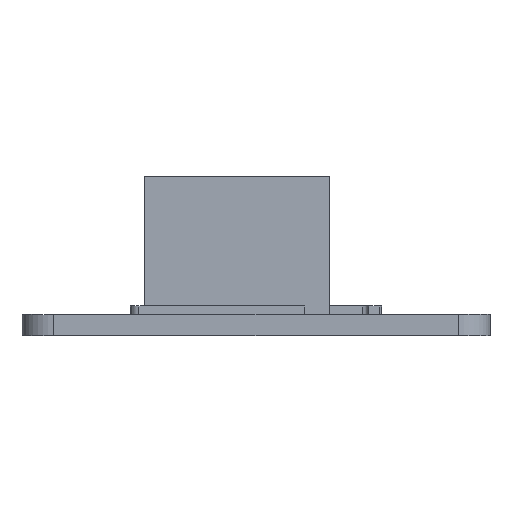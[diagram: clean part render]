
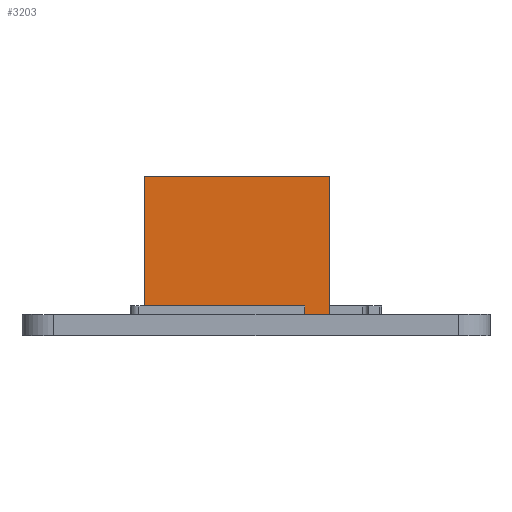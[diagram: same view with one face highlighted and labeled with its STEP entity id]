
A CAD part, front view. The second image highlights one B-rep face of the part: STEP entity #3203.
In plain terms, the highlighted planar face has unit normal (0, -1, 0).
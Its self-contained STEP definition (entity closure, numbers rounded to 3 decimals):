
#44 = PLANE('',#45);
#45 = AXIS2_PLACEMENT_3D('',#46,#47,#48);
#46 = CARTESIAN_POINT('',(-22.,-26.,-15.));
#47 = DIRECTION('',(0.,0.,1.));
#48 = DIRECTION('',(1.,0.,0.));
#2743 = VERTEX_POINT('',#2744);
#2744 = CARTESIAN_POINT('',(-10.45,-20.02,-15.));
#2760 = PLANE('',#2761);
#2761 = AXIS2_PLACEMENT_3D('',#2762,#2763,#2764);
#2762 = CARTESIAN_POINT('',(-10.45,-20.02,-15.));
#2763 = DIRECTION('',(1.,0.,0.));
#2764 = DIRECTION('',(0.,0.,1.));
#2801 = VERTEX_POINT('',#2802);
#2802 = CARTESIAN_POINT('',(6.95,-20.02,-15.));
#2816 = PLANE('',#2817);
#2817 = AXIS2_PLACEMENT_3D('',#2818,#2819,#2820);
#2818 = CARTESIAN_POINT('',(6.95,-20.02,-15.));
#2819 = DIRECTION('',(1.,0.,0.));
#2820 = DIRECTION('',(0.,0.,1.));
#2828 = EDGE_CURVE('',#2743,#2801,#2829,.T.);
#2829 = SURFACE_CURVE('',#2830,(#2834,#2841),.PCURVE_S1.);
#2830 = LINE('',#2831,#2832);
#2831 = CARTESIAN_POINT('',(-10.45,-20.02,-15.));
#2832 = VECTOR('',#2833,1.);
#2833 = DIRECTION('',(1.,0.,0.));
#2834 = PCURVE('',#44,#2835);
#2835 = DEFINITIONAL_REPRESENTATION('',(#2836),#2840);
#2836 = LINE('',#2837,#2838);
#2837 = CARTESIAN_POINT('',(11.55,5.98));
#2838 = VECTOR('',#2839,1.);
#2839 = DIRECTION('',(1.,0.));
#2840 = ( GEOMETRIC_REPRESENTATION_CONTEXT(2) 
PARAMETRIC_REPRESENTATION_CONTEXT() REPRESENTATION_CONTEXT('2D SPACE',''
  ) );
#2841 = PCURVE('',#2842,#2847);
#2842 = PLANE('',#2843);
#2843 = AXIS2_PLACEMENT_3D('',#2844,#2845,#2846);
#2844 = CARTESIAN_POINT('',(-10.45,-20.02,-15.));
#2845 = DIRECTION('',(0.,1.,0.));
#2846 = DIRECTION('',(0.,0.,1.));
#2847 = DEFINITIONAL_REPRESENTATION('',(#2848),#2852);
#2848 = LINE('',#2849,#2850);
#2849 = CARTESIAN_POINT('',(0.,0.));
#2850 = VECTOR('',#2851,1.);
#2851 = DIRECTION('',(0.,1.));
#2852 = ( GEOMETRIC_REPRESENTATION_CONTEXT(2) 
PARAMETRIC_REPRESENTATION_CONTEXT() REPRESENTATION_CONTEXT('2D SPACE',''
  ) );
#3203 = ADVANCED_FACE('',(#3204),#2842,.F.);
#3204 = FACE_BOUND('',#3205,.F.);
#3205 = EDGE_LOOP('',(#3206,#3207,#3230,#3258));
#3206 = ORIENTED_EDGE('',*,*,#2828,.F.);
#3207 = ORIENTED_EDGE('',*,*,#3208,.T.);
#3208 = EDGE_CURVE('',#2743,#3209,#3211,.T.);
#3209 = VERTEX_POINT('',#3210);
#3210 = CARTESIAN_POINT('',(-10.45,-20.02,-2.));
#3211 = SURFACE_CURVE('',#3212,(#3216,#3223),.PCURVE_S1.);
#3212 = LINE('',#3213,#3214);
#3213 = CARTESIAN_POINT('',(-10.45,-20.02,-15.));
#3214 = VECTOR('',#3215,1.);
#3215 = DIRECTION('',(0.,0.,1.));
#3216 = PCURVE('',#2842,#3217);
#3217 = DEFINITIONAL_REPRESENTATION('',(#3218),#3222);
#3218 = LINE('',#3219,#3220);
#3219 = CARTESIAN_POINT('',(0.,0.));
#3220 = VECTOR('',#3221,1.);
#3221 = DIRECTION('',(1.,0.));
#3222 = ( GEOMETRIC_REPRESENTATION_CONTEXT(2) 
PARAMETRIC_REPRESENTATION_CONTEXT() REPRESENTATION_CONTEXT('2D SPACE',''
  ) );
#3223 = PCURVE('',#2760,#3224);
#3224 = DEFINITIONAL_REPRESENTATION('',(#3225),#3229);
#3225 = LINE('',#3226,#3227);
#3226 = CARTESIAN_POINT('',(0.,0.));
#3227 = VECTOR('',#3228,1.);
#3228 = DIRECTION('',(1.,0.));
#3229 = ( GEOMETRIC_REPRESENTATION_CONTEXT(2) 
PARAMETRIC_REPRESENTATION_CONTEXT() REPRESENTATION_CONTEXT('2D SPACE',''
  ) );
#3230 = ORIENTED_EDGE('',*,*,#3231,.T.);
#3231 = EDGE_CURVE('',#3209,#3232,#3234,.T.);
#3232 = VERTEX_POINT('',#3233);
#3233 = CARTESIAN_POINT('',(6.95,-20.02,-2.));
#3234 = SURFACE_CURVE('',#3235,(#3239,#3246),.PCURVE_S1.);
#3235 = LINE('',#3236,#3237);
#3236 = CARTESIAN_POINT('',(-10.45,-20.02,-2.));
#3237 = VECTOR('',#3238,1.);
#3238 = DIRECTION('',(1.,0.,0.));
#3239 = PCURVE('',#2842,#3240);
#3240 = DEFINITIONAL_REPRESENTATION('',(#3241),#3245);
#3241 = LINE('',#3242,#3243);
#3242 = CARTESIAN_POINT('',(13.,0.));
#3243 = VECTOR('',#3244,1.);
#3244 = DIRECTION('',(0.,1.));
#3245 = ( GEOMETRIC_REPRESENTATION_CONTEXT(2) 
PARAMETRIC_REPRESENTATION_CONTEXT() REPRESENTATION_CONTEXT('2D SPACE',''
  ) );
#3246 = PCURVE('',#3247,#3252);
#3247 = PLANE('',#3248);
#3248 = AXIS2_PLACEMENT_3D('',#3249,#3250,#3251);
#3249 = CARTESIAN_POINT('',(-10.45,-20.02,-2.));
#3250 = DIRECTION('',(0.,0.,1.));
#3251 = DIRECTION('',(1.,0.,0.));
#3252 = DEFINITIONAL_REPRESENTATION('',(#3253),#3257);
#3253 = LINE('',#3254,#3255);
#3254 = CARTESIAN_POINT('',(0.,0.));
#3255 = VECTOR('',#3256,1.);
#3256 = DIRECTION('',(1.,0.));
#3257 = ( GEOMETRIC_REPRESENTATION_CONTEXT(2) 
PARAMETRIC_REPRESENTATION_CONTEXT() REPRESENTATION_CONTEXT('2D SPACE',''
  ) );
#3258 = ORIENTED_EDGE('',*,*,#3259,.F.);
#3259 = EDGE_CURVE('',#2801,#3232,#3260,.T.);
#3260 = SURFACE_CURVE('',#3261,(#3265,#3272),.PCURVE_S1.);
#3261 = LINE('',#3262,#3263);
#3262 = CARTESIAN_POINT('',(6.95,-20.02,-15.));
#3263 = VECTOR('',#3264,1.);
#3264 = DIRECTION('',(0.,0.,1.));
#3265 = PCURVE('',#2842,#3266);
#3266 = DEFINITIONAL_REPRESENTATION('',(#3267),#3271);
#3267 = LINE('',#3268,#3269);
#3268 = CARTESIAN_POINT('',(0.,17.4));
#3269 = VECTOR('',#3270,1.);
#3270 = DIRECTION('',(1.,0.));
#3271 = ( GEOMETRIC_REPRESENTATION_CONTEXT(2) 
PARAMETRIC_REPRESENTATION_CONTEXT() REPRESENTATION_CONTEXT('2D SPACE',''
  ) );
#3272 = PCURVE('',#2816,#3273);
#3273 = DEFINITIONAL_REPRESENTATION('',(#3274),#3278);
#3274 = LINE('',#3275,#3276);
#3275 = CARTESIAN_POINT('',(0.,0.));
#3276 = VECTOR('',#3277,1.);
#3277 = DIRECTION('',(1.,0.));
#3278 = ( GEOMETRIC_REPRESENTATION_CONTEXT(2) 
PARAMETRIC_REPRESENTATION_CONTEXT() REPRESENTATION_CONTEXT('2D SPACE',''
  ) );
